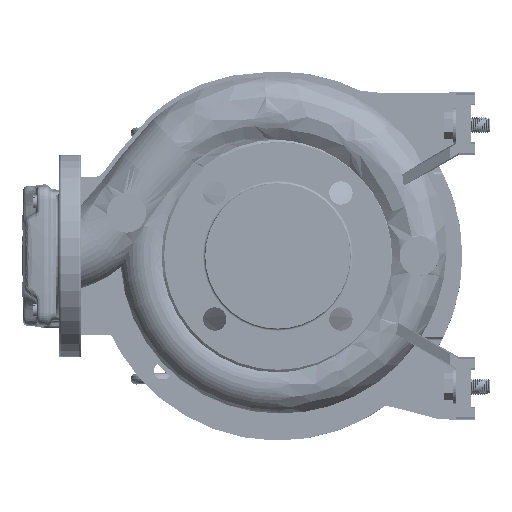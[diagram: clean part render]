
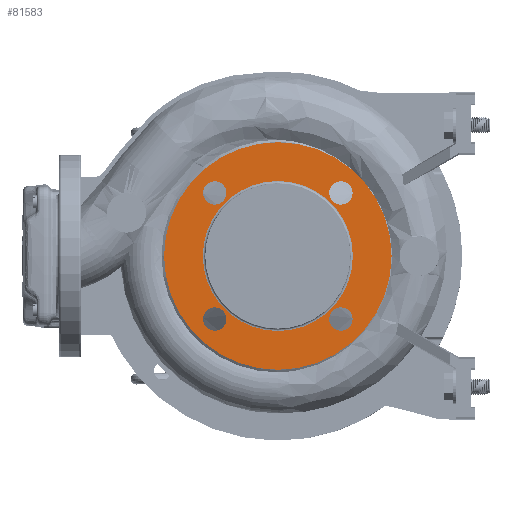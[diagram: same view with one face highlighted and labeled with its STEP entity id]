
A CAD part, left-side view. The second image highlights one B-rep face of the part: STEP entity #81583.
In plain terms, the highlighted planar face has unit normal (-1, 0, 0).
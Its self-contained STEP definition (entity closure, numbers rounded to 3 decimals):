
#209 = FACE_BOUND ( 'NONE', #9220, .T. ) ;
#1365 = EDGE_LOOP ( 'NONE', ( #66882, #113750 ) ) ;
#2624 = VERTEX_POINT ( 'NONE', #170331 ) ;
#4194 = EDGE_CURVE ( 'NONE', #2624, #52789, #147055, .T. ) ;
#6055 = CIRCLE ( 'NONE', #49444, 61. ) ;
#7288 = DIRECTION ( 'NONE',  ( -1., 0., 0. ) ) ;
#7312 = CARTESIAN_POINT ( 'NONE',  ( -159.045, 132.853, 260.318 ) ) ;
#8174 = CARTESIAN_POINT ( 'NONE',  ( -159.045, 142.353, 362.849 ) ) ;
#8344 = CARTESIAN_POINT ( 'NONE',  ( -159.045, 151.853, 362.849 ) ) ;
#8958 = CARTESIAN_POINT ( 'NONE',  ( -159.045, 132.618, 311.583 ) ) ;
#9220 = EDGE_LOOP ( 'NONE', ( #70271, #125354 ) ) ;
#10382 = EDGE_CURVE ( 'NONE', #83460, #141222, #119440, .T. ) ;
#11599 = CARTESIAN_POINT ( 'NONE',  ( -159.045, 142.353, 260.318 ) ) ;
#13343 = AXIS2_PLACEMENT_3D ( 'NONE', #20910, #116710, #103128 ) ;
#13366 = DIRECTION ( 'NONE',  ( 0., 1., 0. ) ) ;
#15393 = ORIENTED_EDGE ( 'NONE', *, *, #41067, .F. ) ;
#15712 = ORIENTED_EDGE ( 'NONE', *, *, #63231, .F. ) ;
#18466 = CIRCLE ( 'NONE', #87732, 9.5 ) ;
#19776 = AXIS2_PLACEMENT_3D ( 'NONE', #136420, #83917, #122844 ) ;
#20910 = CARTESIAN_POINT ( 'NONE',  ( -159.045, 193.618, 311.583 ) ) ;
#20946 = CIRCLE ( 'NONE', #75757, 9.5 ) ;
#25649 = CARTESIAN_POINT ( 'NONE',  ( -159.045, 142.353, 362.849 ) ) ;
#26503 = DIRECTION ( 'NONE',  ( 0., -1., 0. ) ) ;
#27495 = DIRECTION ( 'NONE',  ( 0., 0., 1. ) ) ;
#30061 = CARTESIAN_POINT ( 'NONE',  ( -159.045, 244.883, 362.849 ) ) ;
#30103 = ORIENTED_EDGE ( 'NONE', *, *, #154311, .F. ) ;
#32929 = AXIS2_PLACEMENT_3D ( 'NONE', #25649, #96046, #152964 ) ;
#34612 = AXIS2_PLACEMENT_3D ( 'NONE', #70399, #152637, #54190 ) ;
#35770 = CARTESIAN_POINT ( 'NONE',  ( -159.045, 254.383, 260.318 ) ) ;
#36146 = EDGE_CURVE ( 'NONE', #110001, #144014, #20946, .T. ) ;
#37381 = CIRCLE ( 'NONE', #167252, 9.5 ) ;
#37425 = CARTESIAN_POINT ( 'NONE',  ( -159.045, 132.853, 362.849 ) ) ;
#39625 = AXIS2_PLACEMENT_3D ( 'NONE', #125969, #153057, #177505 ) ;
#39833 = EDGE_CURVE ( 'NONE', #91359, #169640, #77522, .T. ) ;
#41067 = EDGE_CURVE ( 'NONE', #169640, #91359, #37381, .T. ) ;
#45224 = DIRECTION ( 'NONE',  ( -1., 0., 0. ) ) ;
#45428 = DIRECTION ( 'NONE',  ( 1., 0., 0. ) ) ;
#47928 = CARTESIAN_POINT ( 'NONE',  ( -159.045, 244.883, 260.318 ) ) ;
#49444 = AXIS2_PLACEMENT_3D ( 'NONE', #120762, #123414, #175870 ) ;
#52789 = VERTEX_POINT ( 'NONE', #161500 ) ;
#52830 = DIRECTION ( 'NONE',  ( -1., 0., 0. ) ) ;
#53206 = CARTESIAN_POINT ( 'NONE',  ( -159.045, 142.353, 260.318 ) ) ;
#54190 = DIRECTION ( 'NONE',  ( 0., -1., 0. ) ) ;
#55312 = EDGE_CURVE ( 'NONE', #158563, #114809, #86156, .T. ) ;
#55385 = FACE_BOUND ( 'NONE', #1365, .T. ) ;
#60558 = CIRCLE ( 'NONE', #83569, 9.5 ) ;
#60623 = EDGE_LOOP ( 'NONE', ( #30103, #136448 ) ) ;
#63209 = DIRECTION ( 'NONE',  ( -1., 0., 0. ) ) ;
#63231 = EDGE_CURVE ( 'NONE', #132657, #105463, #123006, .T. ) ;
#66882 = ORIENTED_EDGE ( 'NONE', *, *, #55312, .F. ) ;
#68482 = CIRCLE ( 'NONE', #39625, 92.5 ) ;
#68918 = FACE_BOUND ( 'NONE', #60623, .T. ) ;
#69813 = FACE_BOUND ( 'NONE', #112878, .T. ) ;
#70271 = ORIENTED_EDGE ( 'NONE', *, *, #36146, .F. ) ;
#70399 = CARTESIAN_POINT ( 'NONE',  ( -159.045, 193.618, 311.583 ) ) ;
#72772 = AXIS2_PLACEMENT_3D ( 'NONE', #47928, #45224, #158150 ) ;
#75757 = AXIS2_PLACEMENT_3D ( 'NONE', #94357, #52830, #27495 ) ;
#77522 = CIRCLE ( 'NONE', #80424, 9.5 ) ;
#78467 = AXIS2_PLACEMENT_3D ( 'NONE', #169214, #45428, #112285 ) ;
#80424 = AXIS2_PLACEMENT_3D ( 'NONE', #53206, #63209, #108316 ) ;
#81583 = ADVANCED_FACE ( 'NONE', ( #68918, #124074, #209, #55385, #69813, #124968 ), #126759, .F. ) ;
#83460 = VERTEX_POINT ( 'NONE', #8344 ) ;
#83569 = AXIS2_PLACEMENT_3D ( 'NONE', #8174, #7288, #147341 ) ;
#83917 = DIRECTION ( 'NONE',  ( -1., 0., 0. ) ) ;
#86156 = CIRCLE ( 'NONE', #19776, 9.5 ) ;
#87732 = AXIS2_PLACEMENT_3D ( 'NONE', #30061, #135853, #26503 ) ;
#91359 = VERTEX_POINT ( 'NONE', #142221 ) ;
#91995 = EDGE_LOOP ( 'NONE', ( #121474, #131237 ) ) ;
#94216 = ORIENTED_EDGE ( 'NONE', *, *, #176041, .F. ) ;
#94357 = CARTESIAN_POINT ( 'NONE',  ( -159.045, 244.883, 260.318 ) ) ;
#96046 = DIRECTION ( 'NONE',  ( -1., 0., 0. ) ) ;
#96492 = DIRECTION ( 'NONE',  ( -1., 0., 0. ) ) ;
#98456 = EDGE_LOOP ( 'NONE', ( #15393, #159293 ) ) ;
#103128 = DIRECTION ( 'NONE',  ( 0., -1., 0. ) ) ;
#105463 = VERTEX_POINT ( 'NONE', #8958 ) ;
#107347 = CIRCLE ( 'NONE', #72772, 9.5 ) ;
#108316 = DIRECTION ( 'NONE',  ( 0., 1., 0. ) ) ;
#110001 = VERTEX_POINT ( 'NONE', #128296 ) ;
#112285 = DIRECTION ( 'NONE',  ( 0., 1., 0. ) ) ;
#112878 = EDGE_LOOP ( 'NONE', ( #94216, #15712 ) ) ;
#113750 = ORIENTED_EDGE ( 'NONE', *, *, #161709, .F. ) ;
#114809 = VERTEX_POINT ( 'NONE', #140083 ) ;
#116710 = DIRECTION ( 'NONE',  ( -1., 0., 0. ) ) ;
#117475 = EDGE_CURVE ( 'NONE', #144014, #110001, #107347, .T. ) ;
#119440 = CIRCLE ( 'NONE', #32929, 9.5 ) ;
#120762 = CARTESIAN_POINT ( 'NONE',  ( -159.045, 193.618, 311.583 ) ) ;
#121474 = ORIENTED_EDGE ( 'NONE', *, *, #133446, .T. ) ;
#122844 = DIRECTION ( 'NONE',  ( 0., -1., 0. ) ) ;
#123006 = CIRCLE ( 'NONE', #13343, 61. ) ;
#123414 = DIRECTION ( 'NONE',  ( -1., 0., 0. ) ) ;
#124074 = FACE_BOUND ( 'NONE', #98456, .T. ) ;
#124968 = FACE_OUTER_BOUND ( 'NONE', #91995, .T. ) ;
#125354 = ORIENTED_EDGE ( 'NONE', *, *, #117475, .F. ) ;
#125969 = CARTESIAN_POINT ( 'NONE',  ( -159.045, 193.618, 311.583 ) ) ;
#126759 = PLANE ( 'NONE',  #78467 ) ;
#128296 = CARTESIAN_POINT ( 'NONE',  ( -159.045, 235.383, 260.318 ) ) ;
#131237 = ORIENTED_EDGE ( 'NONE', *, *, #4194, .T. ) ;
#132657 = VERTEX_POINT ( 'NONE', #140397 ) ;
#133446 = EDGE_CURVE ( 'NONE', #52789, #2624, #68482, .T. ) ;
#135853 = DIRECTION ( 'NONE',  ( -1., 0., 0. ) ) ;
#136420 = CARTESIAN_POINT ( 'NONE',  ( -159.045, 244.883, 362.849 ) ) ;
#136448 = ORIENTED_EDGE ( 'NONE', *, *, #10382, .F. ) ;
#140083 = CARTESIAN_POINT ( 'NONE',  ( -159.045, 254.383, 362.849 ) ) ;
#140397 = CARTESIAN_POINT ( 'NONE',  ( -159.045, 254.618, 311.583 ) ) ;
#141222 = VERTEX_POINT ( 'NONE', #37425 ) ;
#142221 = CARTESIAN_POINT ( 'NONE',  ( -159.045, 151.853, 260.318 ) ) ;
#144014 = VERTEX_POINT ( 'NONE', #35770 ) ;
#147055 = CIRCLE ( 'NONE', #34612, 92.5 ) ;
#147341 = DIRECTION ( 'NONE',  ( 0., 0., -1. ) ) ;
#152637 = DIRECTION ( 'NONE',  ( -1., 0., 0. ) ) ;
#152964 = DIRECTION ( 'NONE',  ( 0., 0., -1. ) ) ;
#153057 = DIRECTION ( 'NONE',  ( -1., 0., 0. ) ) ;
#154311 = EDGE_CURVE ( 'NONE', #141222, #83460, #60558, .T. ) ;
#158150 = DIRECTION ( 'NONE',  ( 0., 0., 1. ) ) ;
#158563 = VERTEX_POINT ( 'NONE', #172747 ) ;
#159293 = ORIENTED_EDGE ( 'NONE', *, *, #39833, .F. ) ;
#161500 = CARTESIAN_POINT ( 'NONE',  ( -159.045, 101.118, 311.583 ) ) ;
#161709 = EDGE_CURVE ( 'NONE', #114809, #158563, #18466, .T. ) ;
#167252 = AXIS2_PLACEMENT_3D ( 'NONE', #11599, #96492, #13366 ) ;
#169214 = CARTESIAN_POINT ( 'NONE',  ( -159.045, 254.618, 311.583 ) ) ;
#169640 = VERTEX_POINT ( 'NONE', #7312 ) ;
#170331 = CARTESIAN_POINT ( 'NONE',  ( -159.045, 286.118, 311.583 ) ) ;
#172747 = CARTESIAN_POINT ( 'NONE',  ( -159.045, 235.383, 362.849 ) ) ;
#175870 = DIRECTION ( 'NONE',  ( 0., -1., 0. ) ) ;
#176041 = EDGE_CURVE ( 'NONE', #105463, #132657, #6055, .T. ) ;
#177505 = DIRECTION ( 'NONE',  ( 0., -1., 0. ) ) ;
